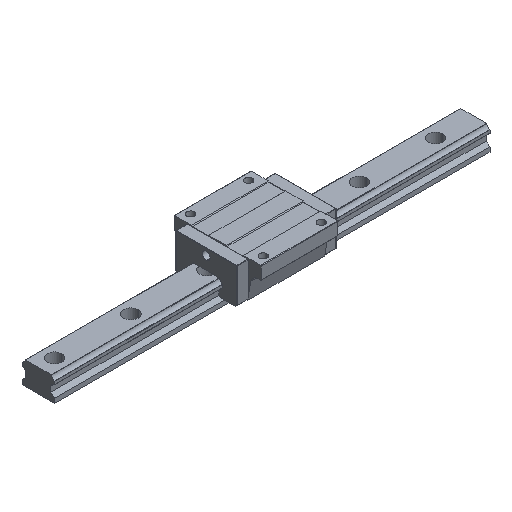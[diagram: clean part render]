
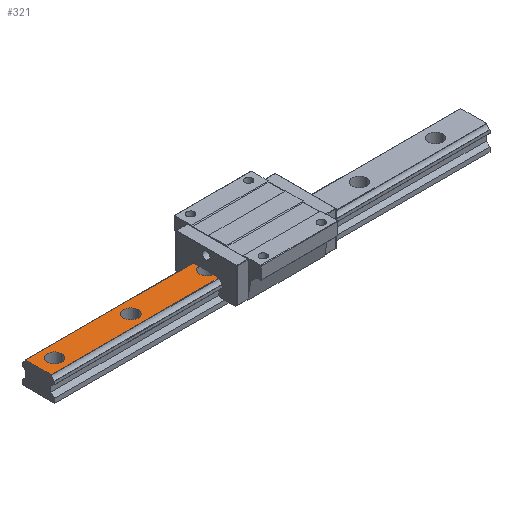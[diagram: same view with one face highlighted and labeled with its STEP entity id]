
A CAD part, isometric view. The second image highlights one B-rep face of the part: STEP entity #321.
In plain terms, the highlighted planar face has unit normal (0, 0, 1).
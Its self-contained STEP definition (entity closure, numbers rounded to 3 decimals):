
#103 = VERTEX_POINT ( 'NONE', #4138 ) ;
#110 = ORIENTED_EDGE ( 'NONE', *, *, #6091, .T. ) ;
#227 = FACE_BOUND ( 'NONE', #2142, .T. ) ;
#321 = ADVANCED_FACE ( 'NONE', ( #3394, #227, #6053 ), #1686, .F. ) ;
#383 = EDGE_CURVE ( 'NONE', #4801, #4404, #1375, .T. ) ;
#453 = VERTEX_POINT ( 'NONE', #4727 ) ;
#460 = EDGE_CURVE ( 'NONE', #3172, #2959, #6315, .T. ) ;
#488 = DIRECTION ( 'NONE',  ( -1., 0., 0. ) ) ;
#629 = LINE ( 'NONE', #6073, #4032 ) ;
#634 = CARTESIAN_POINT ( 'NONE',  ( -277.5, 0., 32. ) ) ;
#679 = DIRECTION ( 'NONE',  ( -1., 0., 0. ) ) ;
#700 = CARTESIAN_POINT ( 'NONE',  ( -300., 0., 32. ) ) ;
#710 = ORIENTED_EDGE ( 'NONE', *, *, #5414, .T. ) ;
#715 = DIRECTION ( 'NONE',  ( 0., 0., -1. ) ) ;
#744 = CARTESIAN_POINT ( 'NONE',  ( -68.7, -9.928, 32. ) ) ;
#839 = CARTESIAN_POINT ( 'NONE',  ( -68.7, -17.738, 32. ) ) ;
#847 = CARTESIAN_POINT ( 'NONE',  ( -77.5, 0., 32. ) ) ;
#892 = VERTEX_POINT ( 'NONE', #4260 ) ;
#900 = CARTESIAN_POINT ( 'NONE',  ( -68.7, -17.738, 32. ) ) ;
#915 = DIRECTION ( 'NONE',  ( 0., 0., -1. ) ) ;
#1071 = DIRECTION ( 'NONE',  ( 0., 0., -1. ) ) ;
#1110 = EDGE_LOOP ( 'NONE', ( #710, #2305, #5800, #1717, #5346, #110, #1470 ) ) ;
#1189 = DIRECTION ( 'NONE',  ( -1., 0., 0. ) ) ;
#1216 = DIRECTION ( 'NONE',  ( 0., -1., 0. ) ) ;
#1305 = DIRECTION ( 'NONE',  ( 0., 0., -1. ) ) ;
#1362 = AXIS2_PLACEMENT_3D ( 'NONE', #3656, #715, #679 ) ;
#1375 = CIRCLE ( 'NONE', #1576, 10. ) ;
#1460 = CARTESIAN_POINT ( 'NONE',  ( 300., 17.738, 32. ) ) ;
#1470 = ORIENTED_EDGE ( 'NONE', *, *, #1921, .T. ) ;
#1576 = AXIS2_PLACEMENT_3D ( 'NONE', #3551, #2101, #1189 ) ;
#1686 = PLANE ( 'NONE',  #2205 ) ;
#1697 = EDGE_CURVE ( 'NONE', #103, #3250, #5155, .T. ) ;
#1717 = ORIENTED_EDGE ( 'NONE', *, *, #2349, .T. ) ;
#1751 = DIRECTION ( 'NONE',  ( 0., -1., 0. ) ) ;
#1752 = CARTESIAN_POINT ( 'NONE',  ( -68.7, 9.928, 32. ) ) ;
#1763 = VECTOR ( 'NONE', #488, 1000. ) ;
#1767 = CARTESIAN_POINT ( 'NONE',  ( -67.5, 0., 32. ) ) ;
#1921 = EDGE_CURVE ( 'NONE', #453, #2081, #5036, .T. ) ;
#1929 = DIRECTION ( 'NONE',  ( -1., 0., 0. ) ) ;
#1953 = DIRECTION ( 'NONE',  ( -1., 0., 0. ) ) ;
#1961 = EDGE_CURVE ( 'NONE', #6244, #892, #6189, .T. ) ;
#2081 = VERTEX_POINT ( 'NONE', #4791 ) ;
#2101 = DIRECTION ( 'NONE',  ( 0., 0., -1. ) ) ;
#2142 = EDGE_LOOP ( 'NONE', ( #6049, #5733 ) ) ;
#2205 = AXIS2_PLACEMENT_3D ( 'NONE', #6086, #3684, #3649 ) ;
#2305 = ORIENTED_EDGE ( 'NONE', *, *, #460, .F. ) ;
#2349 = EDGE_CURVE ( 'NONE', #2837, #3250, #3467, .T. ) ;
#2472 = VECTOR ( 'NONE', #1216, 1000. ) ;
#2514 = EDGE_CURVE ( 'NONE', #4404, #4801, #5466, .T. ) ;
#2837 = VERTEX_POINT ( 'NONE', #847 ) ;
#2959 = VERTEX_POINT ( 'NONE', #4344 ) ;
#3172 = VERTEX_POINT ( 'NONE', #744 ) ;
#3250 = VERTEX_POINT ( 'NONE', #1752 ) ;
#3394 = FACE_BOUND ( 'NONE', #5865, .T. ) ;
#3466 = CARTESIAN_POINT ( 'NONE',  ( -67.5, 0., 32. ) ) ;
#3467 = CIRCLE ( 'NONE', #4307, 10. ) ;
#3551 = CARTESIAN_POINT ( 'NONE',  ( -172.5, 0., 32. ) ) ;
#3601 = DIRECTION ( 'NONE',  ( 1., 0., 0. ) ) ;
#3649 = DIRECTION ( 'NONE',  ( 0., -1., 0. ) ) ;
#3656 = CARTESIAN_POINT ( 'NONE',  ( -277.5, 0., 32. ) ) ;
#3684 = DIRECTION ( 'NONE',  ( 0., 0., -1. ) ) ;
#3690 = DIRECTION ( 'NONE',  ( 0., -1., 0. ) ) ;
#3746 = VECTOR ( 'NONE', #1751, 1000. ) ;
#3808 = VECTOR ( 'NONE', #3690, 1000. ) ;
#4005 = AXIS2_PLACEMENT_3D ( 'NONE', #634, #5173, #6110 ) ;
#4032 = VECTOR ( 'NONE', #3601, 1000. ) ;
#4138 = CARTESIAN_POINT ( 'NONE',  ( -68.7, 17.738, 32. ) ) ;
#4156 = EDGE_CURVE ( 'NONE', #3172, #2837, #5708, .T. ) ;
#4188 = ORIENTED_EDGE ( 'NONE', *, *, #5783, .T. ) ;
#4208 = AXIS2_PLACEMENT_3D ( 'NONE', #6358, #915, #1953 ) ;
#4260 = CARTESIAN_POINT ( 'NONE',  ( -287.5, 0., 32. ) ) ;
#4307 = AXIS2_PLACEMENT_3D ( 'NONE', #1767, #1305, #5258 ) ;
#4344 = CARTESIAN_POINT ( 'NONE',  ( -68.7, -17.738, 32. ) ) ;
#4404 = VERTEX_POINT ( 'NONE', #6381 ) ;
#4727 = CARTESIAN_POINT ( 'NONE',  ( -300., 17.738, 32. ) ) ;
#4791 = CARTESIAN_POINT ( 'NONE',  ( -300., -17.738, 32. ) ) ;
#4801 = VERTEX_POINT ( 'NONE', #5906 ) ;
#5036 = LINE ( 'NONE', #700, #2472 ) ;
#5155 = LINE ( 'NONE', #900, #3808 ) ;
#5173 = DIRECTION ( 'NONE',  ( 0., 0., -1. ) ) ;
#5258 = DIRECTION ( 'NONE',  ( -1., 0., 0. ) ) ;
#5346 = ORIENTED_EDGE ( 'NONE', *, *, #1697, .F. ) ;
#5414 = EDGE_CURVE ( 'NONE', #2081, #2959, #629, .T. ) ;
#5448 = LINE ( 'NONE', #1460, #1763 ) ;
#5466 = CIRCLE ( 'NONE', #4208, 10. ) ;
#5570 = CARTESIAN_POINT ( 'NONE',  ( -267.5, 0., 32. ) ) ;
#5595 = AXIS2_PLACEMENT_3D ( 'NONE', #3466, #1071, #1929 ) ;
#5708 = CIRCLE ( 'NONE', #5595, 10. ) ;
#5733 = ORIENTED_EDGE ( 'NONE', *, *, #383, .T. ) ;
#5783 = EDGE_CURVE ( 'NONE', #892, #6244, #6117, .T. ) ;
#5800 = ORIENTED_EDGE ( 'NONE', *, *, #4156, .T. ) ;
#5865 = EDGE_LOOP ( 'NONE', ( #6264, #4188 ) ) ;
#5906 = CARTESIAN_POINT ( 'NONE',  ( -182.5, 0., 32. ) ) ;
#6049 = ORIENTED_EDGE ( 'NONE', *, *, #2514, .T. ) ;
#6053 = FACE_OUTER_BOUND ( 'NONE', #1110, .T. ) ;
#6073 = CARTESIAN_POINT ( 'NONE',  ( 300., -17.738, 32. ) ) ;
#6086 = CARTESIAN_POINT ( 'NONE',  ( 300., 0., 32. ) ) ;
#6091 = EDGE_CURVE ( 'NONE', #103, #453, #5448, .T. ) ;
#6110 = DIRECTION ( 'NONE',  ( -1., 0., 0. ) ) ;
#6117 = CIRCLE ( 'NONE', #1362, 10. ) ;
#6189 = CIRCLE ( 'NONE', #4005, 10. ) ;
#6244 = VERTEX_POINT ( 'NONE', #5570 ) ;
#6264 = ORIENTED_EDGE ( 'NONE', *, *, #1961, .T. ) ;
#6315 = LINE ( 'NONE', #839, #3746 ) ;
#6358 = CARTESIAN_POINT ( 'NONE',  ( -172.5, 0., 32. ) ) ;
#6381 = CARTESIAN_POINT ( 'NONE',  ( -162.5, 0., 32. ) ) ;
